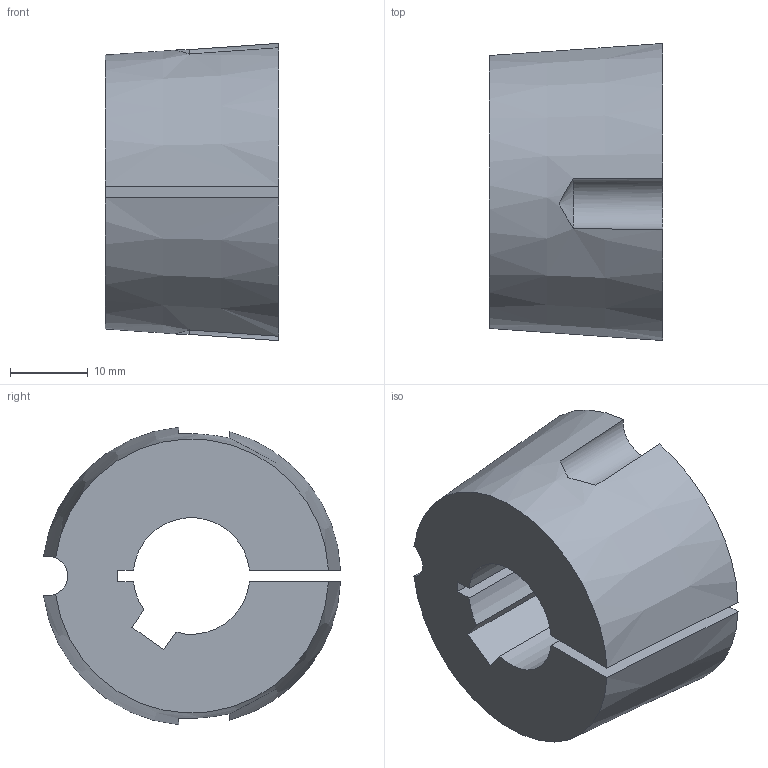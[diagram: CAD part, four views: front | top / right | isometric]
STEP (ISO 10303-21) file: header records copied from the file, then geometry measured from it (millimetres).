
FILE_DESCRIPTION( ( 'STEP AP203' ), '1' );
FILE_NAME( 'D:/export/antriebselemente/spannbuchsen_und_spannsaetze/taper-spannbuchsen_1008_bis_5050/taper-spannbuchsen_62250215Isometric_22.stp', '2018-12-11T11:10:58', ( '' ), ( '' ), ' ', 'PARTsolutions', ' ' );
FILE_SCHEMA( ( 'CONFIG_CONTROL_DESIGN' ) );
Length unit declared in the file: millimetre
Products named in the file (1): _taper-spannbuchsen_62250215
Bounding box: 22.3 x 38.22 x 38.26 mm (x, y, z)
Volume: 18484.2 mm3; surface area: 6091.7 mm2
Topology: 1 solids, 1 shells, 20 faces, 54 edges, 36 vertices
Faces by surface type: plane 10, cylinder 6, cone 4
Entity records: 736 total; most frequent: CARTESIAN_POINT 187, ORIENTED_EDGE 108, DIRECTION 104, EDGE_CURVE 54, AXIS2_PLACEMENT_3D 39, VERTEX_POINT 36, LINE 26, VECTOR 26
